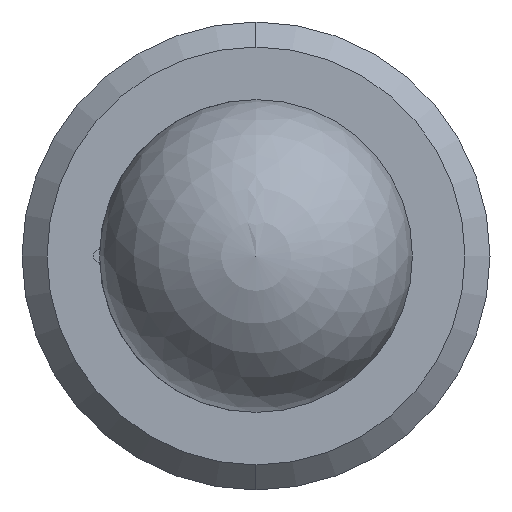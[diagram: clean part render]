
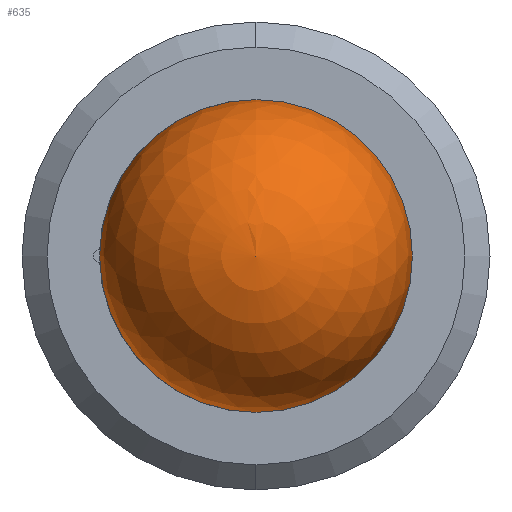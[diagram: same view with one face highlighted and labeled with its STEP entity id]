
A CAD part, left-side view. The second image highlights one B-rep face of the part: STEP entity #635.
In plain terms, the highlighted spherical face has radius 1.587 mm.
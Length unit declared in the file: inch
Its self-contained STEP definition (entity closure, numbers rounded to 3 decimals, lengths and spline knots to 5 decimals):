
#2 = CARTESIAN_POINT ( 'NONE',  ( 0., 0., 0. ) ) ;
#21 = VERTEX_POINT ( 'NONE', #687 ) ;
#60 = DIRECTION ( 'NONE',  ( 0., 0., 1. ) ) ;
#66 = AXIS2_PLACEMENT_3D ( 'NONE', #2, #719, #623 ) ;
#178 = AXIS2_PLACEMENT_3D ( 'NONE', #342, #749, #406 ) ;
#266 = AXIS2_PLACEMENT_3D ( 'NONE', #765, #421, #60 ) ;
#283 = CARTESIAN_POINT ( 'NONE',  ( 0., 0.0625, 0. ) ) ;
#342 = CARTESIAN_POINT ( 'NONE',  ( 0., 0., 0. ) ) ;
#397 = SPHERICAL_SURFACE ( 'NONE', #66, 0.0625 ) ;
#406 = DIRECTION ( 'NONE',  ( 0., 0., -1. ) ) ;
#421 = DIRECTION ( 'NONE',  ( -1., 0., 0. ) ) ;
#442 = EDGE_CURVE ( 'NONE', #534, #21, #541, .T. ) ;
#486 = EDGE_CURVE ( 'NONE', #534, #21, #747, .T. ) ;
#534 = VERTEX_POINT ( 'NONE', #283 ) ;
#541 = CIRCLE ( 'NONE', #266, 0.0625 ) ;
#544 = EDGE_LOOP ( 'NONE', ( #552, #550 ) ) ;
#550 = ORIENTED_EDGE ( 'NONE', *, *, #442, .T. ) ;
#552 = ORIENTED_EDGE ( 'NONE', *, *, #486, .F. ) ;
#623 = DIRECTION ( 'NONE',  ( 0., 0., 1. ) ) ;
#635 = ADVANCED_FACE ( 'NONE', ( #722 ), #397, .T. ) ;
#687 = CARTESIAN_POINT ( 'NONE',  ( 0., -0.0625, 0. ) ) ;
#719 = DIRECTION ( 'NONE',  ( -1., 0., 0. ) ) ;
#722 = FACE_OUTER_BOUND ( 'NONE', #544, .T. ) ;
#747 = CIRCLE ( 'NONE', #178, 0.0625 ) ;
#749 = DIRECTION ( 'NONE',  ( 1., 0., 0. ) ) ;
#765 = CARTESIAN_POINT ( 'NONE',  ( 0., 0., 0. ) ) ;
